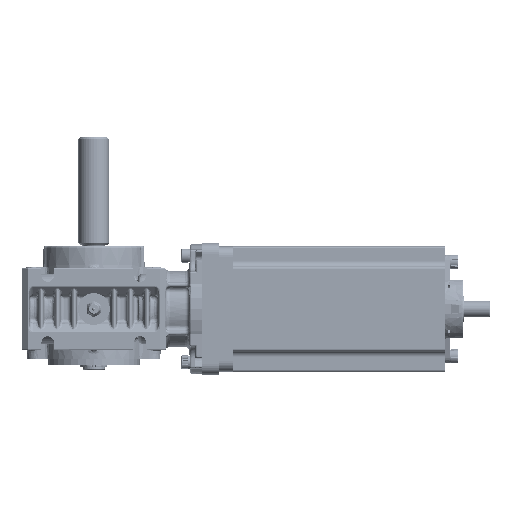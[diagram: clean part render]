
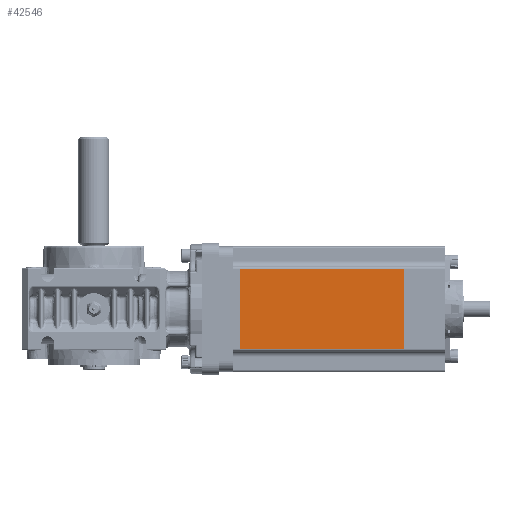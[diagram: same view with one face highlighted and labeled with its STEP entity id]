
A CAD part, front view. The second image highlights one B-rep face of the part: STEP entity #42546.
In plain terms, the highlighted planar face has unit normal (0, -1, 0).
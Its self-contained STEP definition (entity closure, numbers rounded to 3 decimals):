
#1954 = LINE ( 'NONE', #60084, #235098 ) ;
#26662 = CARTESIAN_POINT ( 'NONE',  ( 126.745, -30.63, 271.622 ) ) ;
#42546 = ADVANCED_FACE ( 'NONE', ( #375034 ), #288058, .T. ) ;
#45068 = LINE ( 'NONE', #338771, #200260 ) ;
#59795 = VERTEX_POINT ( 'NONE', #83134 ) ;
#60084 = CARTESIAN_POINT ( 'NONE',  ( 146.745, -30.63, 232.622 ) ) ;
#60282 = EDGE_CURVE ( 'NONE', #328276, #59795, #45068, .T. ) ;
#70488 = EDGE_CURVE ( 'NONE', #328276, #189938, #1954, .T. ) ;
#74661 = LINE ( 'NONE', #364501, #268774 ) ;
#83134 = CARTESIAN_POINT ( 'NONE',  ( 46.745, -30.63, 271.622 ) ) ;
#110790 = ORIENTED_EDGE ( 'NONE', *, *, #70488, .T. ) ;
#115892 = EDGE_CURVE ( 'NONE', #230939, #59795, #74661, .T. ) ;
#129148 = ORIENTED_EDGE ( 'NONE', *, *, #166167, .F. ) ;
#141365 = DIRECTION ( 'NONE',  ( 0., -1., 0. ) ) ;
#163162 = DIRECTION ( 'NONE',  ( 0., 0., 1. ) ) ;
#166167 = EDGE_CURVE ( 'NONE', #230939, #189938, #192379, .T. ) ;
#179337 = ORIENTED_EDGE ( 'NONE', *, *, #60282, .F. ) ;
#181879 = DIRECTION ( 'NONE',  ( 1., 0., 0. ) ) ;
#181980 = CARTESIAN_POINT ( 'NONE',  ( 46.745, -30.63, 232.622 ) ) ;
#189938 = VERTEX_POINT ( 'NONE', #278060 ) ;
#192379 = LINE ( 'NONE', #340988, #327552 ) ;
#200260 = VECTOR ( 'NONE', #163162, 1000. ) ;
#230939 = VERTEX_POINT ( 'NONE', #26662 ) ;
#235098 = VECTOR ( 'NONE', #181879, 1000. ) ;
#246732 = DIRECTION ( 'NONE',  ( -1., 0., 0. ) ) ;
#254102 = DIRECTION ( 'NONE',  ( 0., 0., -1. ) ) ;
#268774 = VECTOR ( 'NONE', #246732, 1000. ) ;
#278060 = CARTESIAN_POINT ( 'NONE',  ( 126.745, -30.63, 232.622 ) ) ;
#282511 = AXIS2_PLACEMENT_3D ( 'NONE', #345961, #141365, #376920 ) ;
#288058 = PLANE ( 'NONE',  #282511 ) ;
#320365 = ORIENTED_EDGE ( 'NONE', *, *, #115892, .T. ) ;
#324929 = EDGE_LOOP ( 'NONE', ( #129148, #320365, #179337, #110790 ) ) ;
#327552 = VECTOR ( 'NONE', #254102, 1000. ) ;
#328276 = VERTEX_POINT ( 'NONE', #181980 ) ;
#338771 = CARTESIAN_POINT ( 'NONE',  ( 46.745, -30.63, 277.622 ) ) ;
#340988 = CARTESIAN_POINT ( 'NONE',  ( 126.745, -30.63, 277.622 ) ) ;
#345961 = CARTESIAN_POINT ( 'NONE',  ( 146.745, -30.63, 277.622 ) ) ;
#364501 = CARTESIAN_POINT ( 'NONE',  ( 43.745, -30.63, 271.622 ) ) ;
#375034 = FACE_OUTER_BOUND ( 'NONE', #324929, .T. ) ;
#376920 = DIRECTION ( 'NONE',  ( 1., 0., 0. ) ) ;
